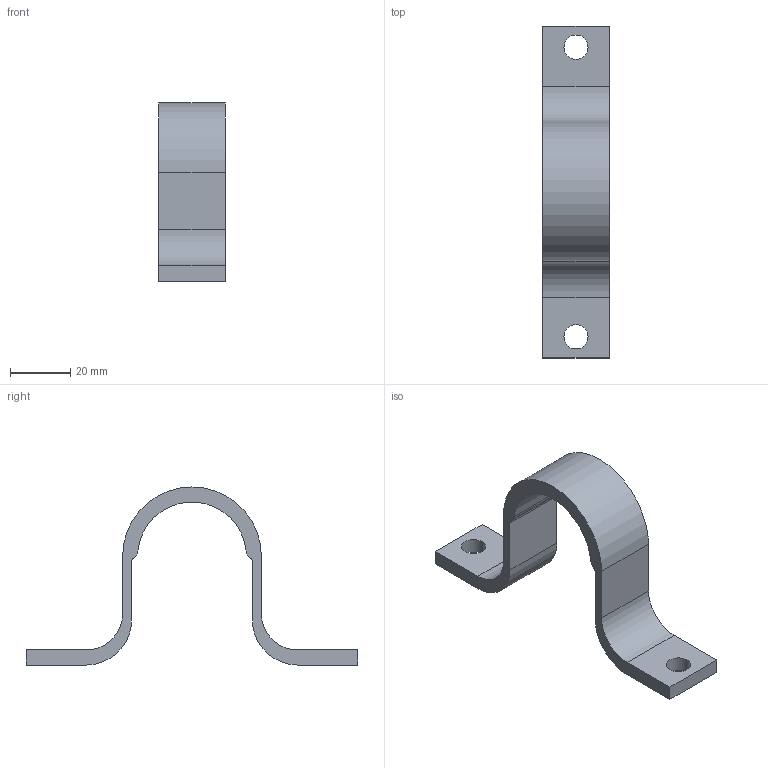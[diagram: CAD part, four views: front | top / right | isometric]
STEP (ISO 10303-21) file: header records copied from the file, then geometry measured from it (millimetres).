
FILE_DESCRIPTION(('CATIA V5 STEP Exchange'),'2;1');
FILE_NAME('\\psf\Home\Desktop\Soporte dirección Astra\Catia\Soporte parte superior v1.3.stp','2014-01-21T23:14:17+00:00',('none'),('none'),'CATIA Version 5 Release 21 GA (IN-10)','CATIA V5 STEP AP203','none');
FILE_SCHEMA(('CONFIG_CONTROL_DESIGN'));
Length unit declared in the file: millimetre
Products named in the file (1): Soporte direccion
Bounding box: 22 x 110 x 59 mm (x, y, z)
Volume: 17626.3 mm3; surface area: 10168.3 mm2
Topology: 1 solids, 1 shells, 26 faces, 72 edges, 48 vertices
Faces by surface type: cylinder 14, plane 12
Entity records: 846 total; most frequent: ORIENTED_EDGE 144, CARTESIAN_POINT 143, DIRECTION 116, EDGE_CURVE 72, AXIS2_PLACEMENT_3D 51, VERTEX_POINT 48, VECTOR 44, LINE 44
